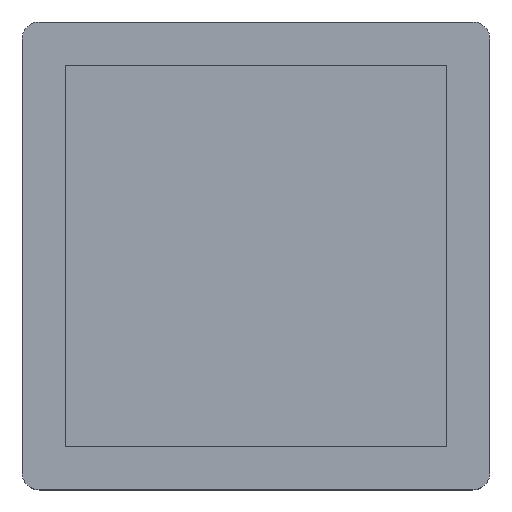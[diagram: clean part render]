
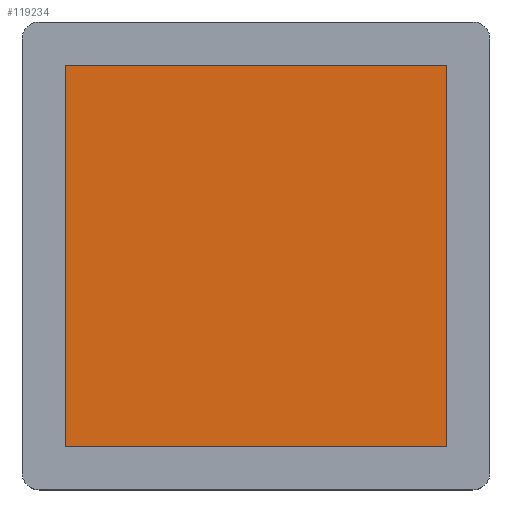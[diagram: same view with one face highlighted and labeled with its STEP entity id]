
A CAD part, top view. The second image highlights one B-rep face of the part: STEP entity #119234.
In plain terms, the highlighted free-form (B-spline) face has degree [1, 1] with [2, 2] control points.
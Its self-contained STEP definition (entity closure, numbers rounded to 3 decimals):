
#118956 = VERTEX_POINT('',#118957);
#118957 = CARTESIAN_POINT('',(-50.,-50.,17.4));
#118963 = B_SPLINE_SURFACE_WITH_KNOTS('',1,1,(
    (#118964,#118965)
    ,(#118966,#118967
    )),.UNSPECIFIED.,.F.,.F.,.F.,(2,2),(2,2),(0.,2.),(-100.,0.),
  .PIECEWISE_BEZIER_KNOTS.);
#118964 = CARTESIAN_POINT('',(-50.,50.,15.4));
#118965 = CARTESIAN_POINT('',(-50.,-50.,15.4));
#118966 = CARTESIAN_POINT('',(-50.,50.,17.4));
#118967 = CARTESIAN_POINT('',(-50.,-50.,17.4));
#118974 = B_SPLINE_SURFACE_WITH_KNOTS('',1,1,(
    (#118975,#118976)
    ,(#118977,#118978
    )),.UNSPECIFIED.,.F.,.F.,.F.,(2,2),(2,2),(0.,2.),(0.,100.),
  .PIECEWISE_BEZIER_KNOTS.);
#118975 = CARTESIAN_POINT('',(-50.,-50.,15.4));
#118976 = CARTESIAN_POINT('',(50.,-50.,15.4));
#118977 = CARTESIAN_POINT('',(-50.,-50.,17.4));
#118978 = CARTESIAN_POINT('',(50.,-50.,17.4));
#119011 = VERTEX_POINT('',#119012);
#119012 = CARTESIAN_POINT('',(-50.,50.,17.4));
#119024 = B_SPLINE_SURFACE_WITH_KNOTS('',1,1,(
    (#119025,#119026)
    ,(#119027,#119028
    )),.UNSPECIFIED.,.F.,.F.,.F.,(2,2),(2,2),(0.,2.),(0.,100.),
  .PIECEWISE_BEZIER_KNOTS.);
#119025 = CARTESIAN_POINT('',(-50.,50.,15.4));
#119026 = CARTESIAN_POINT('',(50.,50.,15.4));
#119027 = CARTESIAN_POINT('',(-50.,50.,17.4));
#119028 = CARTESIAN_POINT('',(50.,50.,17.4));
#119035 = EDGE_CURVE('',#118956,#119011,#119036,.T.);
#119036 = SURFACE_CURVE('',#119037,(#119040,#119046),.PCURVE_S1.);
#119037 = B_SPLINE_CURVE_WITH_KNOTS('',1,(#119038,#119039),
  .UNSPECIFIED.,.F.,.F.,(2,2),(0.,100.),.PIECEWISE_BEZIER_KNOTS.);
#119038 = CARTESIAN_POINT('',(-50.,-50.,17.4));
#119039 = CARTESIAN_POINT('',(-50.,50.,17.4));
#119040 = PCURVE('',#118963,#119041);
#119041 = DEFINITIONAL_REPRESENTATION('',(#119042),#119045);
#119042 = B_SPLINE_CURVE_WITH_KNOTS('',1,(#119043,#119044),
  .UNSPECIFIED.,.F.,.F.,(2,2),(0.,100.),.PIECEWISE_BEZIER_KNOTS.);
#119043 = CARTESIAN_POINT('',(2.,0.));
#119044 = CARTESIAN_POINT('',(2.,-100.));
#119045 = ( GEOMETRIC_REPRESENTATION_CONTEXT(2) 
PARAMETRIC_REPRESENTATION_CONTEXT() REPRESENTATION_CONTEXT('2D SPACE',''
  ) );
#119046 = PCURVE('',#119047,#119052);
#119047 = B_SPLINE_SURFACE_WITH_KNOTS('',1,1,(
    (#119048,#119049)
    ,(#119050,#119051
  )),.UNSPECIFIED.,.F.,.F.,.F.,(2,2),(2,2),(0.,100.),(0.,100.),
  .PIECEWISE_BEZIER_KNOTS.);
#119048 = CARTESIAN_POINT('',(-50.,-50.,17.4));
#119049 = CARTESIAN_POINT('',(-50.,50.,17.4));
#119050 = CARTESIAN_POINT('',(50.,-50.,17.4));
#119051 = CARTESIAN_POINT('',(50.,50.,17.4));
#119052 = DEFINITIONAL_REPRESENTATION('',(#119053),#119056);
#119053 = B_SPLINE_CURVE_WITH_KNOTS('',1,(#119054,#119055),
  .UNSPECIFIED.,.F.,.F.,(2,2),(0.,100.),.PIECEWISE_BEZIER_KNOTS.);
#119054 = CARTESIAN_POINT('',(0.,0.));
#119055 = CARTESIAN_POINT('',(0.,100.));
#119056 = ( GEOMETRIC_REPRESENTATION_CONTEXT(2) 
PARAMETRIC_REPRESENTATION_CONTEXT() REPRESENTATION_CONTEXT('2D SPACE',''
  ) );
#119064 = VERTEX_POINT('',#119065);
#119065 = CARTESIAN_POINT('',(50.,-50.,17.4));
#119071 = B_SPLINE_SURFACE_WITH_KNOTS('',1,1,(
    (#119072,#119073)
    ,(#119074,#119075
    )),.UNSPECIFIED.,.F.,.F.,.F.,(2,2),(2,2),(0.,2.),(-100.,0.),
  .PIECEWISE_BEZIER_KNOTS.);
#119072 = CARTESIAN_POINT('',(50.,50.,15.4));
#119073 = CARTESIAN_POINT('',(50.,-50.,15.4));
#119074 = CARTESIAN_POINT('',(50.,50.,17.4));
#119075 = CARTESIAN_POINT('',(50.,-50.,17.4));
#119109 = VERTEX_POINT('',#119110);
#119110 = CARTESIAN_POINT('',(50.,50.,17.4));
#119128 = EDGE_CURVE('',#119064,#119109,#119129,.T.);
#119129 = SURFACE_CURVE('',#119130,(#119133,#119139),.PCURVE_S1.);
#119130 = B_SPLINE_CURVE_WITH_KNOTS('',1,(#119131,#119132),
  .UNSPECIFIED.,.F.,.F.,(2,2),(0.,100.),.PIECEWISE_BEZIER_KNOTS.);
#119131 = CARTESIAN_POINT('',(50.,-50.,17.4));
#119132 = CARTESIAN_POINT('',(50.,50.,17.4));
#119133 = PCURVE('',#119071,#119134);
#119134 = DEFINITIONAL_REPRESENTATION('',(#119135),#119138);
#119135 = B_SPLINE_CURVE_WITH_KNOTS('',1,(#119136,#119137),
  .UNSPECIFIED.,.F.,.F.,(2,2),(0.,100.),.PIECEWISE_BEZIER_KNOTS.);
#119136 = CARTESIAN_POINT('',(2.,0.));
#119137 = CARTESIAN_POINT('',(2.,-100.));
#119138 = ( GEOMETRIC_REPRESENTATION_CONTEXT(2) 
PARAMETRIC_REPRESENTATION_CONTEXT() REPRESENTATION_CONTEXT('2D SPACE',''
  ) );
#119139 = PCURVE('',#119047,#119140);
#119140 = DEFINITIONAL_REPRESENTATION('',(#119141),#119144);
#119141 = B_SPLINE_CURVE_WITH_KNOTS('',1,(#119142,#119143),
  .UNSPECIFIED.,.F.,.F.,(2,2),(0.,100.),.PIECEWISE_BEZIER_KNOTS.);
#119142 = CARTESIAN_POINT('',(100.,0.));
#119143 = CARTESIAN_POINT('',(100.,100.));
#119144 = ( GEOMETRIC_REPRESENTATION_CONTEXT(2) 
PARAMETRIC_REPRESENTATION_CONTEXT() REPRESENTATION_CONTEXT('2D SPACE',''
  ) );
#119168 = EDGE_CURVE('',#118956,#119064,#119169,.T.);
#119169 = SURFACE_CURVE('',#119170,(#119173,#119179),.PCURVE_S1.);
#119170 = B_SPLINE_CURVE_WITH_KNOTS('',1,(#119171,#119172),
  .UNSPECIFIED.,.F.,.F.,(2,2),(0.,100.),.PIECEWISE_BEZIER_KNOTS.);
#119171 = CARTESIAN_POINT('',(-50.,-50.,17.4));
#119172 = CARTESIAN_POINT('',(50.,-50.,17.4));
#119173 = PCURVE('',#118974,#119174);
#119174 = DEFINITIONAL_REPRESENTATION('',(#119175),#119178);
#119175 = B_SPLINE_CURVE_WITH_KNOTS('',1,(#119176,#119177),
  .UNSPECIFIED.,.F.,.F.,(2,2),(0.,100.),.PIECEWISE_BEZIER_KNOTS.);
#119176 = CARTESIAN_POINT('',(2.,0.));
#119177 = CARTESIAN_POINT('',(2.,100.));
#119178 = ( GEOMETRIC_REPRESENTATION_CONTEXT(2) 
PARAMETRIC_REPRESENTATION_CONTEXT() REPRESENTATION_CONTEXT('2D SPACE',''
  ) );
#119179 = PCURVE('',#119047,#119180);
#119180 = DEFINITIONAL_REPRESENTATION('',(#119181),#119184);
#119181 = B_SPLINE_CURVE_WITH_KNOTS('',1,(#119182,#119183),
  .UNSPECIFIED.,.F.,.F.,(2,2),(0.,100.),.PIECEWISE_BEZIER_KNOTS.);
#119182 = CARTESIAN_POINT('',(0.,0.));
#119183 = CARTESIAN_POINT('',(100.,0.));
#119184 = ( GEOMETRIC_REPRESENTATION_CONTEXT(2) 
PARAMETRIC_REPRESENTATION_CONTEXT() REPRESENTATION_CONTEXT('2D SPACE',''
  ) );
#119209 = EDGE_CURVE('',#119011,#119109,#119210,.T.);
#119210 = SURFACE_CURVE('',#119211,(#119214,#119220),.PCURVE_S1.);
#119211 = B_SPLINE_CURVE_WITH_KNOTS('',1,(#119212,#119213),
  .UNSPECIFIED.,.F.,.F.,(2,2),(0.,100.),.PIECEWISE_BEZIER_KNOTS.);
#119212 = CARTESIAN_POINT('',(-50.,50.,17.4));
#119213 = CARTESIAN_POINT('',(50.,50.,17.4));
#119214 = PCURVE('',#119024,#119215);
#119215 = DEFINITIONAL_REPRESENTATION('',(#119216),#119219);
#119216 = B_SPLINE_CURVE_WITH_KNOTS('',1,(#119217,#119218),
  .UNSPECIFIED.,.F.,.F.,(2,2),(0.,100.),.PIECEWISE_BEZIER_KNOTS.);
#119217 = CARTESIAN_POINT('',(2.,0.));
#119218 = CARTESIAN_POINT('',(2.,100.));
#119219 = ( GEOMETRIC_REPRESENTATION_CONTEXT(2) 
PARAMETRIC_REPRESENTATION_CONTEXT() REPRESENTATION_CONTEXT('2D SPACE',''
  ) );
#119220 = PCURVE('',#119047,#119221);
#119221 = DEFINITIONAL_REPRESENTATION('',(#119222),#119225);
#119222 = B_SPLINE_CURVE_WITH_KNOTS('',1,(#119223,#119224),
  .UNSPECIFIED.,.F.,.F.,(2,2),(0.,100.),.PIECEWISE_BEZIER_KNOTS.);
#119223 = CARTESIAN_POINT('',(0.,100.));
#119224 = CARTESIAN_POINT('',(100.,100.));
#119225 = ( GEOMETRIC_REPRESENTATION_CONTEXT(2) 
PARAMETRIC_REPRESENTATION_CONTEXT() REPRESENTATION_CONTEXT('2D SPACE',''
  ) );
#119234 = ADVANCED_FACE('',(#119235),#119047,.T.);
#119235 = FACE_BOUND('',#119236,.T.);
#119236 = EDGE_LOOP('',(#119237,#119238,#119239,#119240));
#119237 = ORIENTED_EDGE('',*,*,#119035,.F.);
#119238 = ORIENTED_EDGE('',*,*,#119168,.T.);
#119239 = ORIENTED_EDGE('',*,*,#119128,.T.);
#119240 = ORIENTED_EDGE('',*,*,#119209,.F.);
